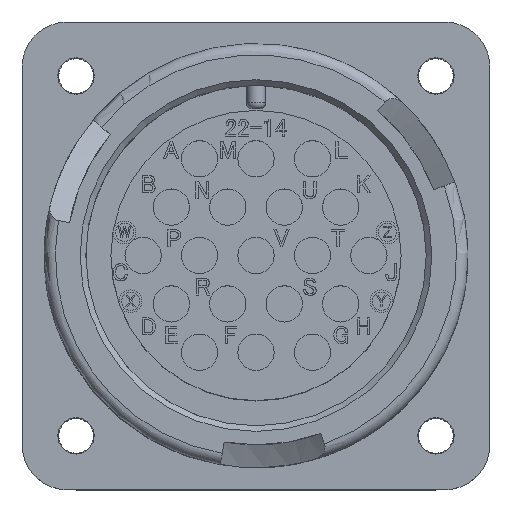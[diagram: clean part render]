
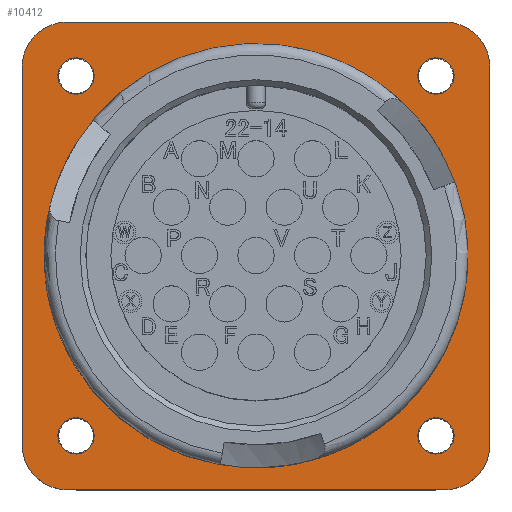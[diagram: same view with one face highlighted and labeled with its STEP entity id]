
A CAD part, top view. The second image highlights one B-rep face of the part: STEP entity #10412.
In plain terms, the highlighted planar face has unit normal (0, 0, 1).
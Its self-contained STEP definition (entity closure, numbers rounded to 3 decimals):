
#967 = AXIS2_PLACEMENT_3D ( 'NONE', #26838, #6138, #30313 ) ;
#1442 = CIRCLE ( 'NONE', #22326, 4. ) ;
#1719 = CARTESIAN_POINT ( 'NONE',  ( -16.635, 16.635, -19.2 ) ) ;
#1748 = CIRCLE ( 'NONE', #36279, 1.6 ) ;
#2008 = EDGE_CURVE ( 'NONE', #26864, #40507, #13085, .T. ) ;
#2063 = DIRECTION ( 'NONE',  ( -1., 0., 0. ) ) ;
#2523 = DIRECTION ( 'NONE',  ( 0., 1., 0. ) ) ;
#4140 = ORIENTED_EDGE ( 'NONE', *, *, #11340, .T. ) ;
#4166 = CARTESIAN_POINT ( 'NONE',  ( 14.275, -15.875, -19.2 ) ) ;
#4451 = CARTESIAN_POINT ( 'NONE',  ( -20.635, 16.635, -19.2 ) ) ;
#4707 = EDGE_CURVE ( 'NONE', #30761, #26864, #14310, .T. ) ;
#4916 = CARTESIAN_POINT ( 'NONE',  ( -18.7, 0., -19.2 ) ) ;
#5033 = CARTESIAN_POINT ( 'NONE',  ( -15.875, 15.875, -19.2 ) ) ;
#5098 = CARTESIAN_POINT ( 'NONE',  ( -15.875, -15.875, -19.2 ) ) ;
#5199 = DIRECTION ( 'NONE',  ( 1., 0., 0. ) ) ;
#5542 = EDGE_LOOP ( 'NONE', ( #23206 ) ) ;
#5694 = FACE_BOUND ( 'NONE', #18671, .T. ) ;
#6138 = DIRECTION ( 'NONE',  ( 0., 0., -1. ) ) ;
#6167 = CIRCLE ( 'NONE', #12045, 1.6 ) ;
#7117 = DIRECTION ( 'NONE',  ( 0., 0., -1. ) ) ;
#7454 = AXIS2_PLACEMENT_3D ( 'NONE', #27827, #7117, #31309 ) ;
#7497 = CARTESIAN_POINT ( 'NONE',  ( 16.635, -16.635, -19.2 ) ) ;
#7520 = CARTESIAN_POINT ( 'NONE',  ( -16.635, -16.635, -19.2 ) ) ;
#7970 = EDGE_CURVE ( 'NONE', #40243, #30270, #22589, .T. ) ;
#8034 = VECTOR ( 'NONE', #35967, 1000. ) ;
#8300 = CIRCLE ( 'NONE', #967, 1.6 ) ;
#8473 = DIRECTION ( 'NONE',  ( -1., 0., 0. ) ) ;
#8537 = DIRECTION ( 'NONE',  ( -1., 0., 0. ) ) ;
#9309 = EDGE_CURVE ( 'NONE', #29095, #21263, #1442, .T. ) ;
#9845 = VERTEX_POINT ( 'NONE', #43032 ) ;
#10242 = EDGE_LOOP ( 'NONE', ( #42198 ) ) ;
#10412 = ADVANCED_FACE ( 'NONE', ( #22989, #5694, #41339, #32165, #13762, #44587 ), #36417, .F. ) ;
#10953 = DIRECTION ( 'NONE',  ( -1., 0., 0. ) ) ;
#10979 = DIRECTION ( 'NONE',  ( -1., 0., 0. ) ) ;
#11324 = CIRCLE ( 'NONE', #23636, 4. ) ;
#11340 = EDGE_CURVE ( 'NONE', #38723, #38723, #8300, .T. ) ;
#11523 = CARTESIAN_POINT ( 'NONE',  ( -17.475, -15.875, -19.2 ) ) ;
#12045 = AXIS2_PLACEMENT_3D ( 'NONE', #5098, #29253, #8537 ) ;
#12533 = CARTESIAN_POINT ( 'NONE',  ( 16.635, -20.635, -19.2 ) ) ;
#13085 = LINE ( 'NONE', #12533, #39559 ) ;
#13313 = AXIS2_PLACEMENT_3D ( 'NONE', #1719, #25863, #5199 ) ;
#13400 = ORIENTED_EDGE ( 'NONE', *, *, #2008, .F. ) ;
#13762 = FACE_OUTER_BOUND ( 'NONE', #42058, .T. ) ;
#13818 = CARTESIAN_POINT ( 'NONE',  ( 14.275, 15.875, -19.2 ) ) ;
#14262 = VERTEX_POINT ( 'NONE', #11523 ) ;
#14310 = CIRCLE ( 'NONE', #31790, 4. ) ;
#14578 = CIRCLE ( 'NONE', #18994, 1.6 ) ;
#14704 = CARTESIAN_POINT ( 'NONE',  ( 16.635, -20.635, -19.2 ) ) ;
#15374 = ORIENTED_EDGE ( 'NONE', *, *, #4707, .F. ) ;
#15996 = DIRECTION ( 'NONE',  ( -1., 0., 0. ) ) ;
#16225 = CARTESIAN_POINT ( 'NONE',  ( -20.635, 16.635, -19.2 ) ) ;
#18655 = DIRECTION ( 'NONE',  ( 0., 0., -1. ) ) ;
#18671 = EDGE_LOOP ( 'NONE', ( #19371 ) ) ;
#18994 = AXIS2_PLACEMENT_3D ( 'NONE', #5033, #29182, #8473 ) ;
#19228 = DIRECTION ( 'NONE',  ( 0., 0., -1. ) ) ;
#19371 = ORIENTED_EDGE ( 'NONE', *, *, #26935, .T. ) ;
#20716 = ORIENTED_EDGE ( 'NONE', *, *, #9309, .F. ) ;
#20866 = ORIENTED_EDGE ( 'NONE', *, *, #32934, .F. ) ;
#21263 = VERTEX_POINT ( 'NONE', #34854 ) ;
#22243 = CARTESIAN_POINT ( 'NONE',  ( 16.635, 20.635, -19.2 ) ) ;
#22326 = AXIS2_PLACEMENT_3D ( 'NONE', #43395, #22755, #2063 ) ;
#22589 = CIRCLE ( 'NONE', #13313, 4. ) ;
#22755 = DIRECTION ( 'NONE',  ( 0., 0., -1. ) ) ;
#22989 = FACE_BOUND ( 'NONE', #10242, .T. ) ;
#23206 = ORIENTED_EDGE ( 'NONE', *, *, #40803, .T. ) ;
#23636 = AXIS2_PLACEMENT_3D ( 'NONE', #7520, #31699, #10979 ) ;
#25327 = LINE ( 'NONE', #22243, #8034 ) ;
#25863 = DIRECTION ( 'NONE',  ( 0., 0., -1. ) ) ;
#26322 = CARTESIAN_POINT ( 'NONE',  ( 20.635, 16.635, -19.2 ) ) ;
#26373 = CIRCLE ( 'NONE', #7454, 18.7 ) ;
#26838 = CARTESIAN_POINT ( 'NONE',  ( 15.875, 15.875, -19.2 ) ) ;
#26864 = VERTEX_POINT ( 'NONE', #14704 ) ;
#26935 = EDGE_CURVE ( 'NONE', #34876, #34876, #1748, .T. ) ;
#27092 = CARTESIAN_POINT ( 'NONE',  ( 20.635, -16.635, -19.2 ) ) ;
#27616 = ORIENTED_EDGE ( 'NONE', *, *, #33018, .F. ) ;
#27827 = CARTESIAN_POINT ( 'NONE',  ( 0., 0., -19.2 ) ) ;
#28723 = EDGE_CURVE ( 'NONE', #9845, #40243, #39005, .T. ) ;
#29095 = VERTEX_POINT ( 'NONE', #35524 ) ;
#29182 = DIRECTION ( 'NONE',  ( 0., 0., -1. ) ) ;
#29253 = DIRECTION ( 'NONE',  ( 0., 0., -1. ) ) ;
#29849 = VECTOR ( 'NONE', #2523, 1000. ) ;
#29948 = DIRECTION ( 'NONE',  ( 0., -1., 0. ) ) ;
#29971 = CARTESIAN_POINT ( 'NONE',  ( -16.635, -20.635, -19.2 ) ) ;
#30270 = VERTEX_POINT ( 'NONE', #37403 ) ;
#30313 = DIRECTION ( 'NONE',  ( -1., 0., 0. ) ) ;
#30761 = VERTEX_POINT ( 'NONE', #27092 ) ;
#31294 = LINE ( 'NONE', #26322, #39364 ) ;
#31309 = DIRECTION ( 'NONE',  ( -1., 0., 0. ) ) ;
#31335 = AXIS2_PLACEMENT_3D ( 'NONE', #39882, #19228, #43331 ) ;
#31677 = DIRECTION ( 'NONE',  ( 0., 0., -1. ) ) ;
#31699 = DIRECTION ( 'NONE',  ( 0., 0., -1. ) ) ;
#31790 = AXIS2_PLACEMENT_3D ( 'NONE', #7497, #31677, #10953 ) ;
#31922 = ORIENTED_EDGE ( 'NONE', *, *, #7970, .F. ) ;
#32165 = FACE_BOUND ( 'NONE', #5542, .T. ) ;
#32400 = CARTESIAN_POINT ( 'NONE',  ( -17.475, 15.875, -19.2 ) ) ;
#32931 = ORIENTED_EDGE ( 'NONE', *, *, #40889, .F. ) ;
#32934 = EDGE_CURVE ( 'NONE', #30270, #29095, #25327, .T. ) ;
#33018 = EDGE_CURVE ( 'NONE', #21263, #30761, #31294, .T. ) ;
#33918 = VERTEX_POINT ( 'NONE', #4916 ) ;
#34854 = CARTESIAN_POINT ( 'NONE',  ( 20.635, 16.635, -19.2 ) ) ;
#34876 = VERTEX_POINT ( 'NONE', #4166 ) ;
#35524 = CARTESIAN_POINT ( 'NONE',  ( 16.635, 20.635, -19.2 ) ) ;
#35967 = DIRECTION ( 'NONE',  ( 1., 0., 0. ) ) ;
#36079 = VERTEX_POINT ( 'NONE', #32400 ) ;
#36279 = AXIS2_PLACEMENT_3D ( 'NONE', #39332, #18655, #42772 ) ;
#36417 = PLANE ( 'NONE',  #31335 ) ;
#37403 = CARTESIAN_POINT ( 'NONE',  ( -16.635, 20.635, -19.2 ) ) ;
#37999 = EDGE_LOOP ( 'NONE', ( #42225 ) ) ;
#38054 = EDGE_CURVE ( 'NONE', #14262, #14262, #6167, .T. ) ;
#38723 = VERTEX_POINT ( 'NONE', #13818 ) ;
#39005 = LINE ( 'NONE', #16225, #29849 ) ;
#39185 = EDGE_LOOP ( 'NONE', ( #4140 ) ) ;
#39332 = CARTESIAN_POINT ( 'NONE',  ( 15.875, -15.875, -19.2 ) ) ;
#39364 = VECTOR ( 'NONE', #29948, 1000. ) ;
#39559 = VECTOR ( 'NONE', #15996, 1000. ) ;
#39882 = CARTESIAN_POINT ( 'NONE',  ( 16.635, 16.635, -19.2 ) ) ;
#40243 = VERTEX_POINT ( 'NONE', #4451 ) ;
#40407 = ORIENTED_EDGE ( 'NONE', *, *, #28723, .F. ) ;
#40507 = VERTEX_POINT ( 'NONE', #29971 ) ;
#40803 = EDGE_CURVE ( 'NONE', #36079, #36079, #14578, .T. ) ;
#40889 = EDGE_CURVE ( 'NONE', #40507, #9845, #11324, .T. ) ;
#41339 = FACE_BOUND ( 'NONE', #39185, .T. ) ;
#42058 = EDGE_LOOP ( 'NONE', ( #20716, #20866, #31922, #40407, #32931, #13400, #15374, #27616 ) ) ;
#42198 = ORIENTED_EDGE ( 'NONE', *, *, #38054, .T. ) ;
#42225 = ORIENTED_EDGE ( 'NONE', *, *, #44036, .T. ) ;
#42772 = DIRECTION ( 'NONE',  ( -1., 0., 0. ) ) ;
#43032 = CARTESIAN_POINT ( 'NONE',  ( -20.635, -16.635, -19.2 ) ) ;
#43331 = DIRECTION ( 'NONE',  ( -1., 0., 0. ) ) ;
#43395 = CARTESIAN_POINT ( 'NONE',  ( 16.635, 16.635, -19.2 ) ) ;
#44036 = EDGE_CURVE ( 'NONE', #33918, #33918, #26373, .T. ) ;
#44587 = FACE_BOUND ( 'NONE', #37999, .T. ) ;
